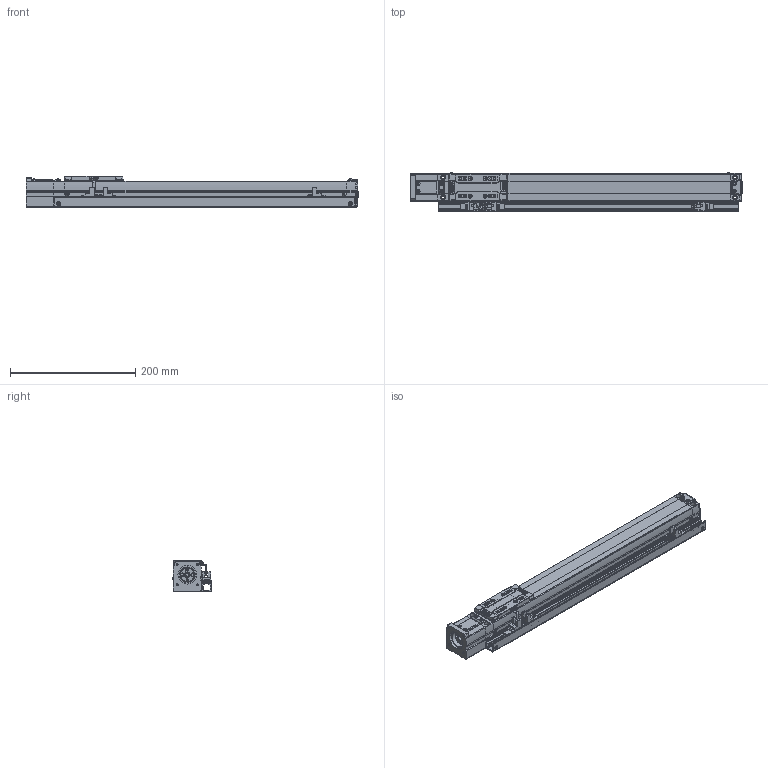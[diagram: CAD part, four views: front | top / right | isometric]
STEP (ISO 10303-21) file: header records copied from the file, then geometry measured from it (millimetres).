
FILE_DESCRIPTION(('STEP AP214'),'1');
FILE_NAME('Z:/Web/3D/SAN45/STP/SAN45ㅁㅁ-350S+3SR.stp','2012-06-15T06:55:26',(' '),(' '),'Spatial InterOp 3D',' ',' ');
FILE_SCHEMA(('automotive_design'));
Length unit declared in the file: metre
Products named in the file (86): SAN45__-350; BODY-SAN45; REAR-SAN45; RRCV-SAN45; BHCS M3 x 6L; BHCS M3 X 6L; FRONT-SAN45; SHAFT; RN8 x 0.75; SSFX-SAN45; SLIDE-SAN45; SLCV-IM45; FHCS M3 x 6L; ____89; S; MTHZ-SAN45; SDWB 22C-6-8; SDWB22C(2); SDWB22C(2)_1; SDWB22C(3); SDWB22C(3)_1; SDWB22C(3)_2; SDWB22C(3)_3; SDWB22C(3)_4; SDWB22C(3)_5; SDWB22C(3)_6; SDWB22C(3)_7; SDWB22C(3)_8; SDWB22C(3)_9; SDWB22C(3)_10; SDWB22C(3)_11; SDWB22C(3)_12; SDWB22C(3)_13; SDWB22C(3)_14; SDWB22C(3)_15; SDWB22C(4); SDWB22C(5); SDWB22C(5)_1; SDWB22C(5)_2; SDWB22C(5)_3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
Assembly tree (85 placements, depth 4):
  ____89
    SAN45__-350
      BODY-SAN45
      REAR-SAN45
        REAR-SAN45
        RRCV-SAN45
        BHCS M3 x 6L
        BHCS M3 X 6L
        BHCS M3 x 6L
        BHCS M3 x 6L
        BHCS M3 x 6L
        BHCS M3 x 6L
      FRONT-SAN45
        FRONT-SAN45
        SHAFT
        RN8 x 0.75
        SSFX-SAN45
        BHCS M3 x 6L
        BHCS M3 x 6L
        BHCS M3 x 6L
        BHCS M3 x 6L
      SLIDE-SAN45
        SLIDE-SAN45
        SLCV-IM45
        FHCS M3 x 6L
        FHCS M3 x 6L
        FHCS M3 x 6L
        FHCS M3 x 6L
    S
      MTHZ-SAN45
      SDWB 22C-6-8
        SDWB22C(2)
        SDWB22C(2)_1
        SDWB22C(3)
        SDWB22C(3)_1
        SDWB22C(3)_2
        SDWB22C(3)_3
        SDWB22C(3)_4
        SDWB22C(3)_5
        SDWB22C(3)_6
        SDWB22C(3)_7
        SDWB22C(3)_8
        SDWB22C(3)_9
        SDWB22C(3)_10
        SDWB22C(3)_11
        SDWB22C(3)_12
        SDWB22C(3)_13
        SDWB22C(3)_14
        SDWB22C(3)_15
        SDWB22C(4)
        SDWB22C(5)
        SDWB22C(5)_1
        SDWB22C(5)_2
        SDWB22C(5)_3
        SDWB22C(5)_4
        SDWB22C(5)_5
        SDWB22C(5)_6
        SDWB22C(5)_7
        SDWA22C(1)
        SDWA22C(1)
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Bounding box: 530.15 x 62.06 x 50 mm (x, y, z)
Volume: 1016924.5 mm3; surface area: 225031.4 mm2
Topology: 74 solids, 74 shells, 2382 faces, 6059 edges, 3908 vertices
Faces by surface type: plane 1432, cylinder 661, cone 159, sphere 54, bspline 46, torus 27, extrusion 3
Full cylindrical faces by diameter (mm): 0.376 x2, 0.47 x1, 1.137 x2, 1.421 x1, 1.665 x4, 2.081 x2, 2.2 x4, 2.5 x45, 2.6 x14, 2.7 x2, 3 x10, 3.193 x4, 3.3 x8, 3.4 x4, 3.5 x16, 3.991 x2, 4.2 x11, 4.5 x28, 4.9 x2, 5 x13, 6 x9, 6.5 x2, 7 x1, 8 x9, 9 x1, 10.7 x2, 13 x1, 15 x1, 19 x1, 22.2 x3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
Entity records: 94398 total; most frequent: CARTESIAN_POINT 17054, DIRECTION 11945, ORIENTED_EDGE 11044, EDGE_CURVE 5522, AXIS2_PLACEMENT_3D 4166, VERTEX_POINT 3779, VECTOR 3613, LINE 3610
